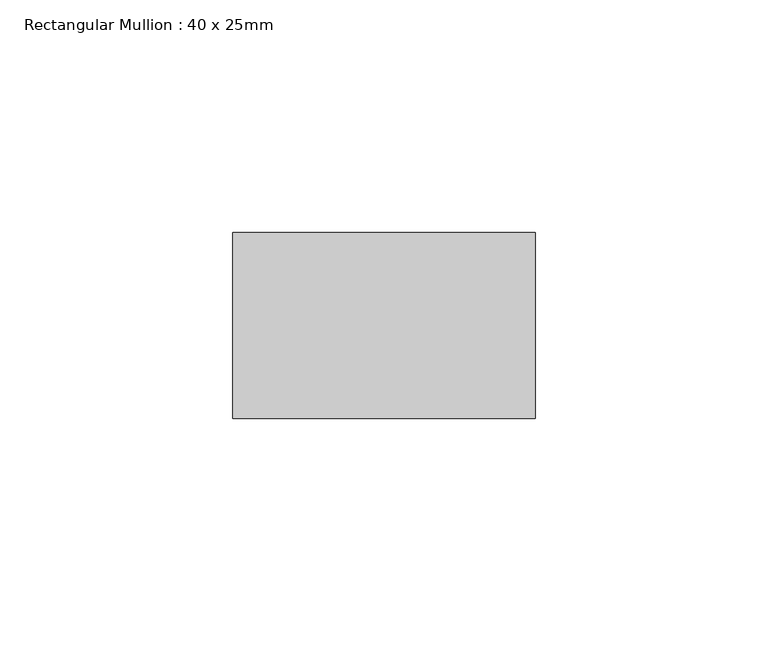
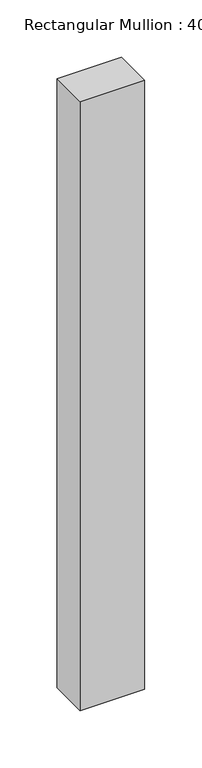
"""IFC4 building model written with IfcOpenShell, lengths in millimetres: member geometry, Rectangular Mullion : 40 x 25mm."""

from ifc_helpers import new_model, si_unit, frame, origin, place, context, project, spatial, polyline, outline, extrude, source, transform, mapped, element, save


def rectangular_mullion_40_x_25mm_fcea62a1(model_context):
    return source(origin(), model_context, "Body", "SweptSolid", [
        extrude(outline(polyline([(0.0, -20.0), (0.0, -60.0), (-65.0, -60.0), (-65.0, -20.0), (0.0, -20.0)])), frame((0.0, 0.0, -647.9333333), z_axis=(0.0, 0.0, 1.0), x_axis=(1.0, 0.0, 0.0)), (0.0, 0.0, 1.0), 647.9333333),
    ])


if __name__ == "__main__":
    model = new_model("IFC4")
    model_context = context("Model", 3, world=origin())
    ifc_project = project(units=[si_unit("LENGTHUNIT", "METRE", prefix="MILLI")], contexts=[model_context])
    site = spatial("IfcSite", under=ifc_project)
    building = spatial("IfcBuilding", under=site)
    placement = place(None, origin())
    rectangular_mullion_40_x_25mm_shape = rectangular_mullion_40_x_25mm_fcea62a1(model_context)
    element("IfcMember", 1, ObjectType="Rectangular Mullion : 40 x 25mm", at=placement, inside=building, context=model_context, shape_type="MappedRepresentation", body=[
        mapped(rectangular_mullion_40_x_25mm_shape, transform((0.0, 0.0, 0.0), x_axis=(1.0, 0.0, 0.0), y_axis=(0.0, 1.0, 0.0), z_axis=(0.0, 0.0, 1.0))),
    ])
    save(model, "model.ifc")
